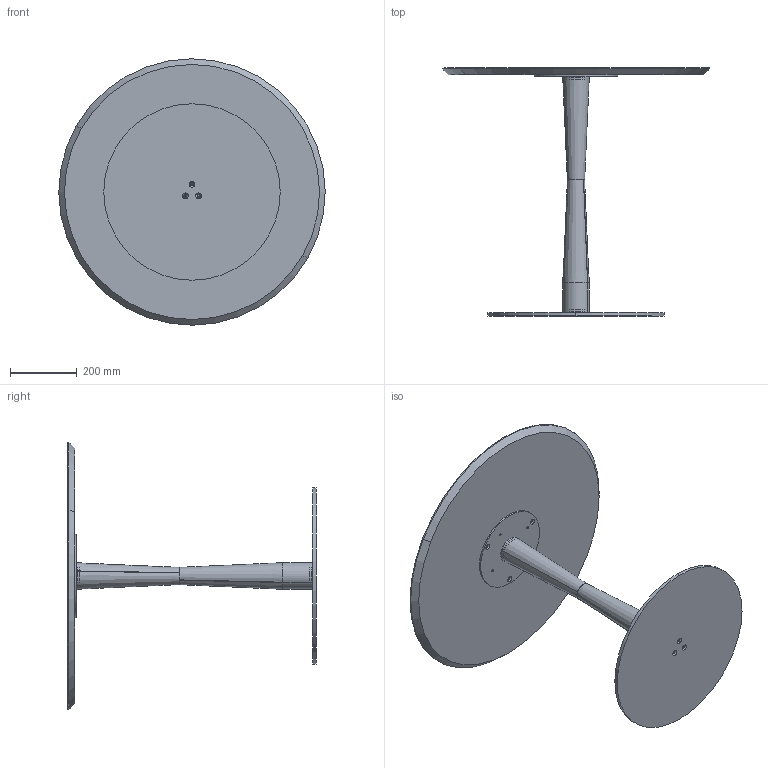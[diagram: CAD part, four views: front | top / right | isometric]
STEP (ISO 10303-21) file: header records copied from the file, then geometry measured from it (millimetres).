
FILE_DESCRIPTION (( 'STEP AP203' ), '1' );
FILE_NAME ('FI20W.STEP', '2024-08-08T07:59:31', ( '' ), ( '' ), 'SwSTEP 2.0', 'SolidWorks 2022', '' );
FILE_SCHEMA (( 'CONFIG_CONTROL_DESIGN' ));
Length unit declared in the file: millimetre
Products named in the file (8): FIL000000_02-00-Tubo Conificato inferiore_tagliato; CBS200000PST-00-CONTROPIASTRA PER PIASTRA D.25cm GREZZO_250; FIL000000_03-00-Piastra per Tubi conificati FILU; W1XCMXX-00-Piani Rotondi legno_D.800 SP.20cm; FI20W; CBS000000BAS-00-BISTRO PIASTRA INFERIORE_D.530; FIL000000_01-00-Tubo Conificato superiore_tagliato; FIL000000COL-01-FILU'' COLONNA CENTRALE
Assembly tree (8 placements, depth 3):
  FI20W
    CBS000000BAS-00-BISTRO PIASTRA INFERIORE_D.530
    CBS200000PST-00-CONTROPIASTRA PER PIASTRA D.25cm GREZZO_250
    FIL000000COL-01-FILU'' COLONNA CENTRALE
      FIL000000_02-00-Tubo Conificato inferiore_tagliato
      FIL000000_01-00-Tubo Conificato superiore_tagliato
      FIL000000_03-00-Piastra per Tubi conificati FILU  x2
    W1XCMXX-00-Piani Rotondi legno_D.800 SP.20cm
Bounding box: 800 x 745 x 800 mm (x, y, z)
Volume: 12473514.1 mm3; surface area: 1907088.6 mm2
Topology: 7 solids, 7 shells, 120 faces, 278 edges, 168 vertices
Faces by surface type: cylinder 62, cone 44, plane 14
Entity records: 4052 total; most frequent: DIRECTION 638, CARTESIAN_POINT 520, ORIENTED_EDGE 492, AXIS2_PLACEMENT_3D 270, EDGE_CURVE 246, EDGE_LOOP 152, VERTEX_POINT 152, CIRCLE 148
